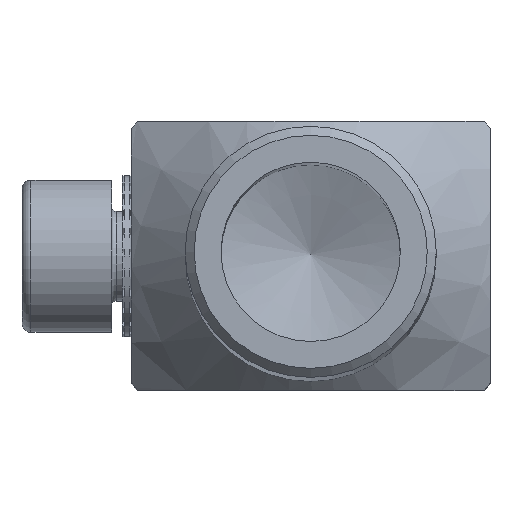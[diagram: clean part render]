
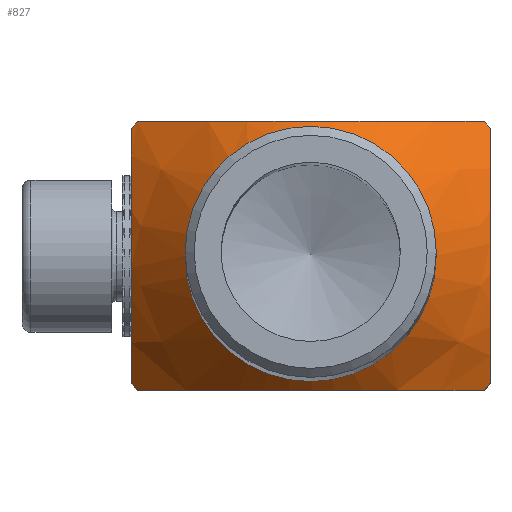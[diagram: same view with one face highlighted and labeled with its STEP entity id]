
A CAD part, top view. The second image highlights one B-rep face of the part: STEP entity #827.
In plain terms, the highlighted conical face has half-angle 45 degrees and reference radius 11.181 mm.
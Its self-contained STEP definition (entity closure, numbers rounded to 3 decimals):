
#827=ADVANCED_FACE('',(#1565,#1566),#1567,.T.);
#1565=FACE_BOUND('',#2305,.T.);
#1566=FACE_OUTER_BOUND('',#2306,.T.);
#1567=CONICAL_SURFACE('',#2307,11.181,0.785);
#2305=EDGE_LOOP('',(#4451));
#2306=EDGE_LOOP('',(#4452,#4453,#4454,#4455,#4456,#4457,#4458,#4459));
#2307=AXIS2_PLACEMENT_3D('',#4460,#4461,#4462);
#4451=ORIENTED_EDGE('',*,*,#5469,.T.);
#4452=ORIENTED_EDGE('',*,*,#5470,.F.);
#4453=ORIENTED_EDGE('',*,*,#5471,.F.);
#4454=ORIENTED_EDGE('',*,*,#5472,.F.);
#4455=ORIENTED_EDGE('',*,*,#5473,.F.);
#4456=ORIENTED_EDGE('',*,*,#5474,.F.);
#4457=ORIENTED_EDGE('',*,*,#5467,.F.);
#4458=ORIENTED_EDGE('',*,*,#5475,.F.);
#4459=ORIENTED_EDGE('',*,*,#5476,.F.);
#4460=CARTESIAN_POINT('',(0.,20.819,0.));
#4461=DIRECTION('',(0.,-1.0,0.));
#4462=DIRECTION('',(0.0,0.,-1.0));
#5467=EDGE_CURVE('',#6774,#6761,#6776,.T.);
#5469=EDGE_CURVE('',#6778,#6778,#6779,.T.);
#5470=EDGE_CURVE('',#6780,#6781,#6782,.T.);
#5471=EDGE_CURVE('',#6783,#6780,#6784,.T.);
#5472=EDGE_CURVE('',#6785,#6783,#6786,.T.);
#5473=EDGE_CURVE('',#6787,#6785,#6788,.T.);
#5474=EDGE_CURVE('',#6761,#6787,#6789,.T.);
#5475=EDGE_CURVE('',#6790,#6774,#6791,.T.);
#5476=EDGE_CURVE('',#6781,#6790,#6792,.T.);
#6761=VERTEX_POINT('',#8510);
#6774=VERTEX_POINT('',#8531);
#6776=B_SPLINE_CURVE_WITH_KNOTS('',3,(#8534,#8535,#8536,#8537,#8538,#8539,#8540,#8541,#8542,#8543,#8544,#8545,#8546,#8547,#8548,#8549,#8550,#8551,#8552,#8553,#8554,#8555,#8556,#8557,#8558,#8559),.UNSPECIFIED.,.F.,.F.,(4,2,2,2,2,2,2,2,2,2,2,2,4),(0.024,0.027,0.029,0.032,0.033,0.035,0.036,0.036,0.038,0.039,0.04,0.043,0.046),.UNSPECIFIED.);
#6778=VERTEX_POINT('',#8561);
#6779=CIRCLE('',#8562,7.0);
#6780=VERTEX_POINT('',#8563);
#6781=VERTEX_POINT('',#8564);
#6782=CIRCLE('',#8565,12.25);
#6783=VERTEX_POINT('',#8566);
#6784=B_SPLINE_CURVE_WITH_KNOTS('',3,(#8567,#8568,#8569,#8570,#8571,#8572,#8573,#8574,#8575,#8576,#8577,#8578,#8579,#8580,#8581,#8582,#8583,#8584,#8585,#8586,#8587,#8588,#8589,#8590,#8591,#8592),.UNSPECIFIED.,.F.,.F.,(4,2,2,2,2,2,2,2,2,2,2,2,4),(0.024,0.027,0.029,0.032,0.033,0.035,0.036,0.036,0.038,0.039,0.04,0.043,0.046),.UNSPECIFIED.);
#6785=VERTEX_POINT('',#8593);
#6786=CIRCLE('',#8594,12.25);
#6787=VERTEX_POINT('',#8595);
#6788=B_SPLINE_CURVE_WITH_KNOTS('',3,(#8596,#8597,#8598,#8599,#8600,#8601,#8602,#8603,#8604,#8605,#8606,#8607,#8608,#8609,#8610,#8611,#8612,#8613,#8614,#8615,#8616,#8617),.UNSPECIFIED.,.F.,.F.,(4,2,2,2,2,2,2,2,2,2,4),(0.02,0.024,0.025,0.026,0.028,0.029,0.03,0.032,0.033,0.034,0.035),.UNSPECIFIED.);
#6789=CIRCLE('',#8618,12.25);
#6790=VERTEX_POINT('',#8619);
#6791=CIRCLE('',#8620,12.25);
#6792=B_SPLINE_CURVE_WITH_KNOTS('',3,(#8621,#8622,#8623,#8624,#8625,#8626,#8627,#8628,#8629,#8630,#8631,#8632,#8633,#8634,#8635,#8636,#8637,#8638,#8639,#8640,#8641,#8642),.UNSPECIFIED.,.F.,.F.,(4,2,2,2,2,2,2,2,2,2,4),(0.02,0.024,0.025,0.026,0.028,0.029,0.03,0.032,0.033,0.034,0.035),.UNSPECIFIED.);
#8510=CARTESIAN_POINT('',(-9.686,19.75,7.5));
#8531=CARTESIAN_POINT('',(9.686,19.75,7.5));
#8534=CARTESIAN_POINT('',(9.686,19.75,7.5));
#8535=CARTESIAN_POINT('',(8.969,20.317,7.5));
#8536=CARTESIAN_POINT('',(8.239,20.871,7.5));
#8537=CARTESIAN_POINT('',(6.749,21.925,7.5));
#8538=CARTESIAN_POINT('',(5.988,22.424,7.5));
#8539=CARTESIAN_POINT('',(4.413,23.322,7.5));
#8540=CARTESIAN_POINT('',(3.598,23.722,7.5));
#8541=CARTESIAN_POINT('',(2.293,24.168,7.5));
#8542=CARTESIAN_POINT('',(1.84,24.29,7.5));
#8543=CARTESIAN_POINT('',(0.936,24.455,7.5));
#8544=CARTESIAN_POINT('',(0.481,24.499,7.5));
#8545=CARTESIAN_POINT('',(-0.206,24.501,7.5));
#8546=CARTESIAN_POINT('',(-0.436,24.491,7.5));
#8547=CARTESIAN_POINT('',(-0.898,24.45,7.5));
#8548=CARTESIAN_POINT('',(-1.13,24.419,7.5));
#8549=CARTESIAN_POINT('',(-1.814,24.297,7.5));
#8550=CARTESIAN_POINT('',(-2.258,24.178,7.5));
#8551=CARTESIAN_POINT('',(-3.13,23.883,7.5));
#8552=CARTESIAN_POINT('',(-3.559,23.707,7.5));
#8553=CARTESIAN_POINT('',(-4.398,23.314,7.5));
#8554=CARTESIAN_POINT('',(-4.805,23.099,7.5));
#8555=CARTESIAN_POINT('',(-5.998,22.419,7.5));
#8556=CARTESIAN_POINT('',(-6.759,21.917,7.5));
#8557=CARTESIAN_POINT('',(-8.246,20.866,7.5));
#8558=CARTESIAN_POINT('',(-8.971,20.315,7.5));
#8559=CARTESIAN_POINT('',(-9.686,19.75,7.5));
#8561=CARTESIAN_POINT('',(0.,25.0,-7.));
#8562=AXIS2_PLACEMENT_3D('',#9785,#9786,#9787);
#8563=CARTESIAN_POINT('',(9.686,19.75,-7.5));
#8564=CARTESIAN_POINT('',(10.0,19.75,-7.075));
#8565=AXIS2_PLACEMENT_3D('',#9788,#9789,#9790);
#8566=CARTESIAN_POINT('',(-9.686,19.75,-7.5));
#8567=CARTESIAN_POINT('',(-9.686,19.75,-7.5));
#8568=CARTESIAN_POINT('',(-8.969,20.317,-7.5));
#8569=CARTESIAN_POINT('',(-8.239,20.871,-7.5));
#8570=CARTESIAN_POINT('',(-6.749,21.925,-7.5));
#8571=CARTESIAN_POINT('',(-5.988,22.424,-7.5));
#8572=CARTESIAN_POINT('',(-4.413,23.322,-7.5));
#8573=CARTESIAN_POINT('',(-3.598,23.722,-7.5));
#8574=CARTESIAN_POINT('',(-2.293,24.168,-7.5));
#8575=CARTESIAN_POINT('',(-1.84,24.29,-7.5));
#8576=CARTESIAN_POINT('',(-0.936,24.455,-7.5));
#8577=CARTESIAN_POINT('',(-0.481,24.499,-7.5));
#8578=CARTESIAN_POINT('',(0.206,24.501,-7.5));
#8579=CARTESIAN_POINT('',(0.436,24.491,-7.5));
#8580=CARTESIAN_POINT('',(0.898,24.45,-7.5));
#8581=CARTESIAN_POINT('',(1.13,24.419,-7.5));
#8582=CARTESIAN_POINT('',(1.814,24.297,-7.5));
#8583=CARTESIAN_POINT('',(2.258,24.178,-7.5));
#8584=CARTESIAN_POINT('',(3.13,23.883,-7.5));
#8585=CARTESIAN_POINT('',(3.559,23.707,-7.5));
#8586=CARTESIAN_POINT('',(4.398,23.314,-7.5));
#8587=CARTESIAN_POINT('',(4.805,23.099,-7.5));
#8588=CARTESIAN_POINT('',(5.998,22.419,-7.5));
#8589=CARTESIAN_POINT('',(6.759,21.917,-7.5));
#8590=CARTESIAN_POINT('',(8.246,20.866,-7.5));
#8591=CARTESIAN_POINT('',(8.971,20.315,-7.5));
#8592=CARTESIAN_POINT('',(9.686,19.75,-7.5));
#8593=CARTESIAN_POINT('',(-10.0,19.75,-7.075));
#8594=AXIS2_PLACEMENT_3D('',#9791,#9792,#9793);
#8595=CARTESIAN_POINT('',(-10.0,19.75,7.075));
#8596=CARTESIAN_POINT('',(-10.0,19.75,7.075));
#8597=CARTESIAN_POINT('',(-10.0,20.379,5.987));
#8598=CARTESIAN_POINT('',(-10.0,20.935,4.865));
#8599=CARTESIAN_POINT('',(-10.0,21.448,3.381));
#8600=CARTESIAN_POINT('',(-10.0,21.541,3.079));
#8601=CARTESIAN_POINT('',(-10.0,21.703,2.471));
#8602=CARTESIAN_POINT('',(-10.0,21.773,2.166));
#8603=CARTESIAN_POINT('',(-10.0,21.941,1.244));
#8604=CARTESIAN_POINT('',(-10.0,22.,0.623));
#8605=CARTESIAN_POINT('',(-10.0,22.,-0.319));
#8606=CARTESIAN_POINT('',(-10.0,21.985,-0.636));
#8607=CARTESIAN_POINT('',(-10.0,21.925,-1.263));
#8608=CARTESIAN_POINT('',(-10.0,21.882,-1.573));
#8609=CARTESIAN_POINT('',(-10.0,21.711,-2.494));
#8610=CARTESIAN_POINT('',(-10.0,21.546,-3.097));
#8611=CARTESIAN_POINT('',(-10.0,21.237,-3.989));
#8612=CARTESIAN_POINT('',(-10.0,21.124,-4.284));
#8613=CARTESIAN_POINT('',(-10.0,20.883,-4.863));
#8614=CARTESIAN_POINT('',(-10.0,20.756,-5.148));
#8615=CARTESIAN_POINT('',(-10.0,20.353,-5.991));
#8616=CARTESIAN_POINT('',(-10.0,20.06,-6.538));
#8617=CARTESIAN_POINT('',(-10.0,19.75,-7.075));
#8618=AXIS2_PLACEMENT_3D('',#9794,#9795,#9796);
#8619=CARTESIAN_POINT('',(10.0,19.75,7.075));
#8620=AXIS2_PLACEMENT_3D('',#9797,#9798,#9799);
#8621=CARTESIAN_POINT('',(10.0,19.75,-7.075));
#8622=CARTESIAN_POINT('',(10.0,20.379,-5.987));
#8623=CARTESIAN_POINT('',(10.0,20.935,-4.865));
#8624=CARTESIAN_POINT('',(10.0,21.448,-3.381));
#8625=CARTESIAN_POINT('',(10.0,21.541,-3.079));
#8626=CARTESIAN_POINT('',(10.0,21.703,-2.471));
#8627=CARTESIAN_POINT('',(10.0,21.773,-2.166));
#8628=CARTESIAN_POINT('',(10.0,21.941,-1.244));
#8629=CARTESIAN_POINT('',(10.0,22.,-0.623));
#8630=CARTESIAN_POINT('',(10.0,22.,0.319));
#8631=CARTESIAN_POINT('',(10.0,21.985,0.636));
#8632=CARTESIAN_POINT('',(10.0,21.925,1.263));
#8633=CARTESIAN_POINT('',(10.0,21.882,1.573));
#8634=CARTESIAN_POINT('',(10.0,21.711,2.494));
#8635=CARTESIAN_POINT('',(10.0,21.546,3.097));
#8636=CARTESIAN_POINT('',(10.0,21.237,3.989));
#8637=CARTESIAN_POINT('',(10.0,21.124,4.284));
#8638=CARTESIAN_POINT('',(10.0,20.883,4.863));
#8639=CARTESIAN_POINT('',(10.0,20.756,5.148));
#8640=CARTESIAN_POINT('',(10.0,20.353,5.991));
#8641=CARTESIAN_POINT('',(10.0,20.06,6.538));
#8642=CARTESIAN_POINT('',(10.0,19.75,7.075));
#9785=CARTESIAN_POINT('',(0.,25.0,0.));
#9786=DIRECTION('',(0.,-1.0,0.));
#9787=DIRECTION('',(0.0,0.,-1.0));
#9788=CARTESIAN_POINT('',(0.,19.75,0.));
#9789=DIRECTION('',(0.,-1.0,0.));
#9790=DIRECTION('',(0.0,0.,-1.0));
#9791=CARTESIAN_POINT('',(0.,19.75,0.));
#9792=DIRECTION('',(0.,-1.0,0.));
#9793=DIRECTION('',(0.0,0.,-1.0));
#9794=CARTESIAN_POINT('',(0.,19.75,0.));
#9795=DIRECTION('',(0.,-1.0,0.));
#9796=DIRECTION('',(0.0,0.,-1.0));
#9797=CARTESIAN_POINT('',(0.,19.75,0.));
#9798=DIRECTION('',(0.,-1.0,0.));
#9799=DIRECTION('',(0.0,0.,-1.0));
